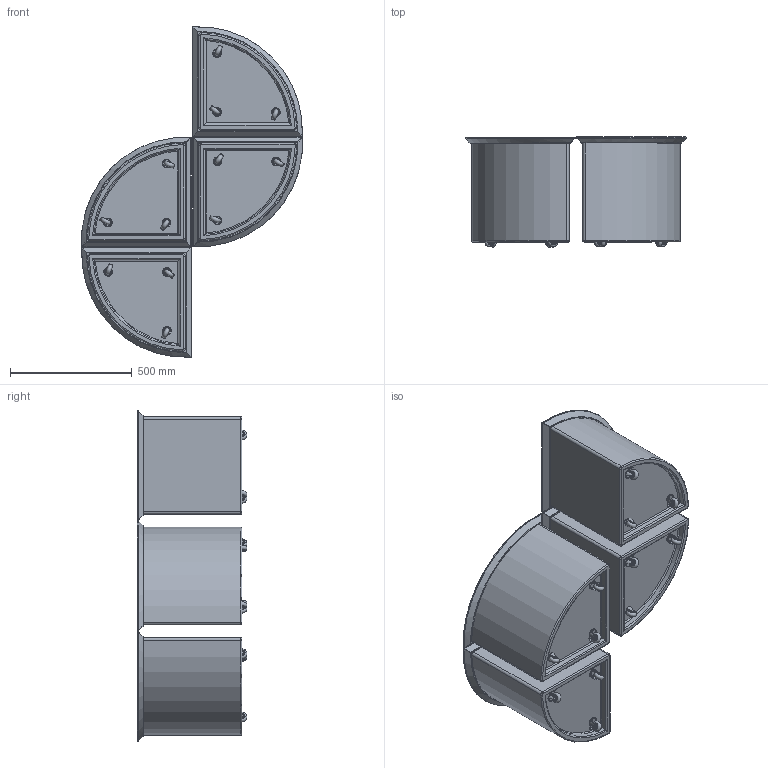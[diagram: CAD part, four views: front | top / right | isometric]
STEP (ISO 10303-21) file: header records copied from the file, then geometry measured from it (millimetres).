
FILE_DESCRIPTION(/* description */ (''),/* implementation_level */ '2;1');
FILE_NAME(/* name */ 'SLICE COFFEE TABLE LAYOUT 1.step',/* time_stamp */ '2024-10-09T16:16:42+13:00',/* author */ (''),/* organization */ (''),/* preprocessor_version */ 'ST-DEVELOPER v20',/* originating_system */ 'Autodesk Translation Framework v13.20.0.188',/* authorisation */ '');
FILE_SCHEMA (('AUTOMOTIVE_DESIGN { 1 0 10303 214 3 1 1 }'));
Length unit declared in the file: millimetre
Products named in the file (30): Slice; Component3; CLEAR CASTOR; caster throw v1; CLEAR CASTOR_1; caster throw v1_1; CLEAR CASTOR_2; caster throw v1_2; Component3_1; CLEAR CASTOR_3; caster throw v1_3; CLEAR CASTOR_4; caster throw v1_4; CLEAR CASTOR_5; caster throw v1_5; Component3_2; CLEAR CASTOR_6; caster throw v1_6; CLEAR CASTOR_7; caster throw v1_7; CLEAR CASTOR_8; caster throw v1_8; Component3_3; CLEAR CASTOR_9; caster throw v1_9; CLEAR CASTOR_10; caster throw v1_10; CLEAR CASTOR_11; caster throw v1_11; rigid_caster_mfae_210_gel_ct
Assembly tree (40 placements, depth 5):
  Slice
    Component3
      CLEAR CASTOR
        caster throw v1
          rigid_caster_mfae_210_gel_ct
      CLEAR CASTOR_1
        caster throw v1_1
          rigid_caster_mfae_210_gel_ct
      CLEAR CASTOR_2
        caster throw v1_2
          rigid_caster_mfae_210_gel_ct
    Component3_1
      CLEAR CASTOR_3
        caster throw v1_3
          rigid_caster_mfae_210_gel_ct
      CLEAR CASTOR_4
        caster throw v1_4
          rigid_caster_mfae_210_gel_ct
      CLEAR CASTOR_5
        caster throw v1_5
          rigid_caster_mfae_210_gel_ct
    Component3_2
      CLEAR CASTOR_6
        caster throw v1_6
          rigid_caster_mfae_210_gel_ct
      CLEAR CASTOR_7
        caster throw v1_7
          rigid_caster_mfae_210_gel_ct
      CLEAR CASTOR_8
        caster throw v1_8
          rigid_caster_mfae_210_gel_ct
    Component3_3
      CLEAR CASTOR_9
        caster throw v1_9
          rigid_caster_mfae_210_gel_ct
      CLEAR CASTOR_10
        caster throw v1_10
          rigid_caster_mfae_210_gel_ct
      CLEAR CASTOR_11
        caster throw v1_11
          rigid_caster_mfae_210_gel_ct
Bounding box: 906.47 x 450.3 x 1354.92 mm (x, y, z)
Volume: 207758781.9 mm3; surface area: 4941898.7 mm2
Topology: 44 solids, 44 shells, 1964 faces, 5844 edges, 3792 vertices
Faces by surface type: cylinder 844, plane 760, torus 204, cone 100, sphere 36, bspline 20
Full cylindrical faces by diameter (mm): 5.5 x12, 12.5 x12, 31.667 x12, 35 x12
Entity records: 29250 total; most frequent: CARTESIAN_POINT 8816, DIRECTION 4317, ORIENTED_EDGE 4186, EDGE_CURVE 2093, AXIS2_PLACEMENT_3D 1708, VERTEX_POINT 1317, LINE 901, VECTOR 901
